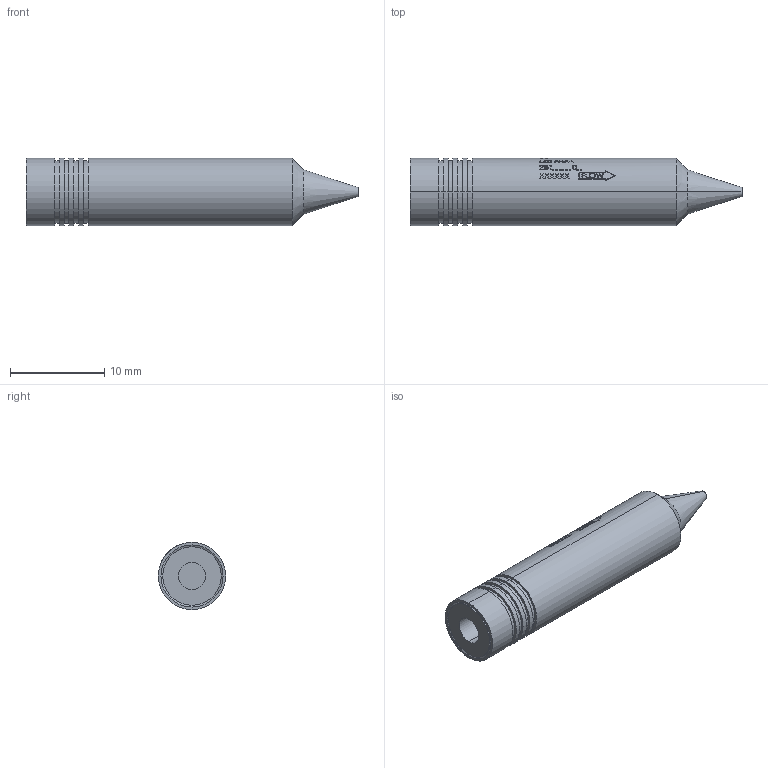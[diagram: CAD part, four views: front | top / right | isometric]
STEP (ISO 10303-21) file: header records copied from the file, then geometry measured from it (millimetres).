
FILE_DESCRIPTION (( 'STEP AP214' ), '1' );
FILE_NAME ('3DFHFA281---0-.STEP', '2021-03-29T14:34:08', ( '' ), ( '' ), 'SwSTEP 2.0', 'SolidWorks 2019', '' );
FILE_SCHEMA (( 'AUTOMOTIVE_DESIGN' ));
Length unit declared in the file: inch
Products named in the file (1): 3DFHFA281---0-
Bounding box: 35.31 x 7.14 x 7.14 mm (x, y, z)
Volume: 1144.6 mm3; surface area: 879.6 mm2
Topology: 1 solids, 1 shells, 354 faces, 918 edges, 610 vertices
Faces by surface type: plane 167, bspline 125, cylinder 56, cone 6
Entity records: 17199 total; most frequent: CARTESIAN_POINT 5495, ORIENTED_EDGE 1836, DIRECTION 1118, EDGE_CURVE 918, VERTEX_POINT 610, B_SPLINE_CURVE_WITH_KNOTS 422, EDGE_LOOP 398, AXIS2_PLACEMENT_3D 392
